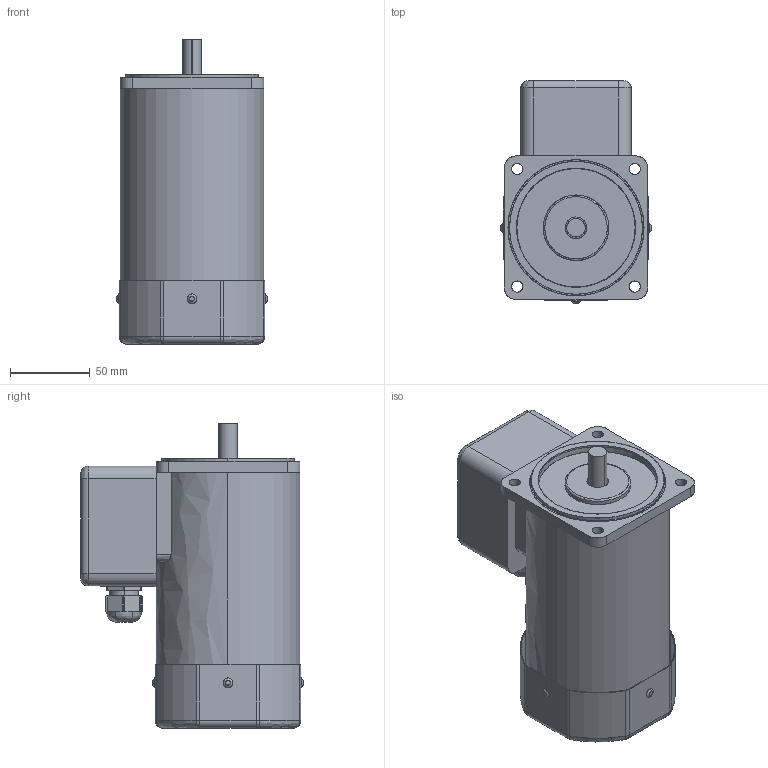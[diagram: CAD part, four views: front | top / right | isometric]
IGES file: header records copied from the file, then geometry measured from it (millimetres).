
Start section: SolidWorks IGES file using analytic representation for surfaces
Bounding box: 94 x 139 x 190.5 mm (x, y, z)
Surface area: 176159 mm2 (no closed solid volume)
Topology: 0 solids, 0 shells, 304 faces, 4808 edges, 4792 vertices
Faces by surface type: bspline 168, revolution 136
